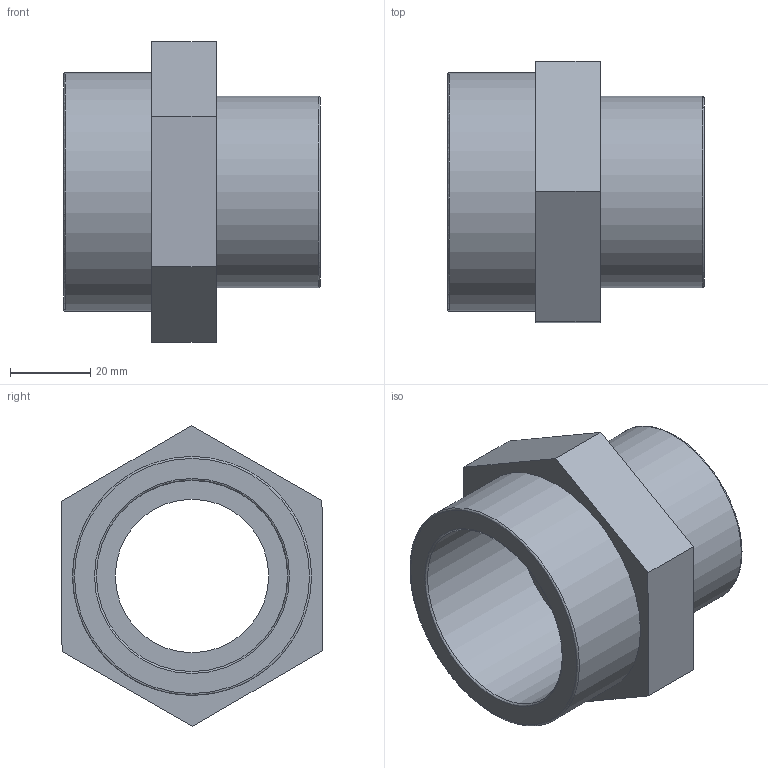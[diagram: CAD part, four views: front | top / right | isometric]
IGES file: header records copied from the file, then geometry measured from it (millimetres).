
Global section: file name: 051601020015.ipt; native system: Autodesk Inventor 2015; preprocessor: unknown; author: KIM; date: 20171207.165305; units: millimetre
Bounding box: 64 x 65.14 x 75.06 mm (x, y, z)
Volume: 72152.9 mm3; surface area: 25186.3 mm2
Topology: 1 solids, 1 shells, 19 faces, 50 edges, 36 vertices
Faces by surface type: plane 11, revolution 6, cylinder 2
Full cylindrical faces by diameter (mm): 47.803 x1, 59.614 x1
